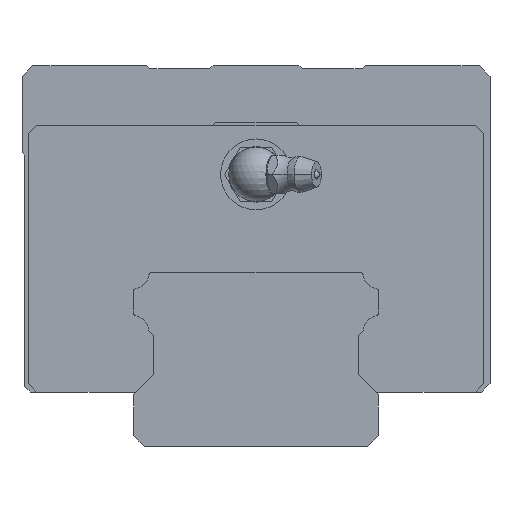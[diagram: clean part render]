
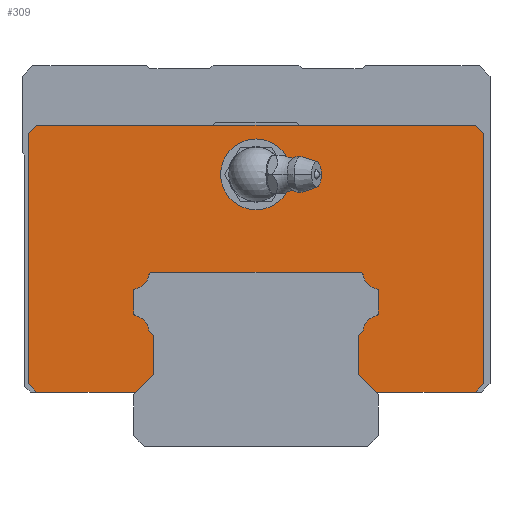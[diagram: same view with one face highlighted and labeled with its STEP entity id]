
A CAD part, front view. The second image highlights one B-rep face of the part: STEP entity #309.
In plain terms, the highlighted planar face has unit normal (0, -1, 0).
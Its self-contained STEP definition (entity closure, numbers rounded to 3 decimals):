
#309=ADVANCED_FACE('',(#690,#691),#692,.T.);
#690=FACE_BOUND('',#1214,.T.);
#691=FACE_OUTER_BOUND('',#1215,.T.);
#692=PLANE('',#1216);
#1214=EDGE_LOOP('',(#2506,#2507,#2508));
#1215=EDGE_LOOP('',(#2509,#2510,#2511,#2512,#2513,#2514,#2515,#2516,#2517,#2518,#2519,#2520,#2521,#2522,#2523,#2524,#2525,#2526,#2527,#2528,#2529,#2530,#2531,#2532,#2533,#2534,#2535,#2536));
#1216=AXIS2_PLACEMENT_3D('',#2537,#2538,#2539);
#2506=ORIENTED_EDGE('',*,*,#3655,.F.);
#2507=ORIENTED_EDGE('',*,*,#3656,.F.);
#2508=ORIENTED_EDGE('',*,*,#3492,.F.);
#2509=ORIENTED_EDGE('',*,*,#3657,.T.);
#2510=ORIENTED_EDGE('',*,*,#3658,.T.);
#2511=ORIENTED_EDGE('',*,*,#3659,.T.);
#2512=ORIENTED_EDGE('',*,*,#3660,.T.);
#2513=ORIENTED_EDGE('',*,*,#3661,.T.);
#2514=ORIENTED_EDGE('',*,*,#3662,.T.);
#2515=ORIENTED_EDGE('',*,*,#3663,.T.);
#2516=ORIENTED_EDGE('',*,*,#3664,.T.);
#2517=ORIENTED_EDGE('',*,*,#3630,.T.);
#2518=ORIENTED_EDGE('',*,*,#3665,.T.);
#2519=ORIENTED_EDGE('',*,*,#3610,.T.);
#2520=ORIENTED_EDGE('',*,*,#3666,.T.);
#2521=ORIENTED_EDGE('',*,*,#3667,.T.);
#2522=ORIENTED_EDGE('',*,*,#3668,.T.);
#2523=ORIENTED_EDGE('',*,*,#3669,.T.);
#2524=ORIENTED_EDGE('',*,*,#3670,.T.);
#2525=ORIENTED_EDGE('',*,*,#3671,.T.);
#2526=ORIENTED_EDGE('',*,*,#3672,.T.);
#2527=ORIENTED_EDGE('',*,*,#3673,.T.);
#2528=ORIENTED_EDGE('',*,*,#3674,.T.);
#2529=ORIENTED_EDGE('',*,*,#3675,.T.);
#2530=ORIENTED_EDGE('',*,*,#3676,.T.);
#2531=ORIENTED_EDGE('',*,*,#3677,.T.);
#2532=ORIENTED_EDGE('',*,*,#3678,.T.);
#2533=ORIENTED_EDGE('',*,*,#3679,.T.);
#2534=ORIENTED_EDGE('',*,*,#3680,.T.);
#2535=ORIENTED_EDGE('',*,*,#3681,.T.);
#2536=ORIENTED_EDGE('',*,*,#3682,.T.);
#2537=CARTESIAN_POINT('',(0.,-34.25,99.3));
#2538=DIRECTION('',(0.0,-1.0,0.0));
#2539=DIRECTION('',(0.0,0.0,-1.0));
#3492=EDGE_CURVE('',#4263,#4266,#4267,.T.);
#3610=EDGE_CURVE('',#4473,#4471,#4474,.T.);
#3630=EDGE_CURVE('',#4504,#4509,#4511,.T.);
#3655=EDGE_CURVE('',#4552,#4263,#4553,.T.);
#3656=EDGE_CURVE('',#4266,#4552,#4554,.T.);
#3657=EDGE_CURVE('',#4555,#4556,#4557,.T.);
#3658=EDGE_CURVE('',#4556,#4558,#4559,.T.);
#3659=EDGE_CURVE('',#4558,#4560,#4561,.T.);
#3660=EDGE_CURVE('',#4560,#4562,#4563,.T.);
#3661=EDGE_CURVE('',#4562,#4564,#4565,.T.);
#3662=EDGE_CURVE('',#4564,#4566,#4567,.T.);
#3663=EDGE_CURVE('',#4566,#4568,#4569,.T.);
#3664=EDGE_CURVE('',#4568,#4504,#4570,.T.);
#3665=EDGE_CURVE('',#4509,#4473,#4571,.T.);
#3666=EDGE_CURVE('',#4471,#4572,#4573,.T.);
#3667=EDGE_CURVE('',#4572,#4574,#4575,.T.);
#3668=EDGE_CURVE('',#4574,#4576,#4577,.T.);
#3669=EDGE_CURVE('',#4576,#4578,#4579,.T.);
#3670=EDGE_CURVE('',#4578,#4580,#4581,.T.);
#3671=EDGE_CURVE('',#4580,#4582,#4583,.T.);
#3672=EDGE_CURVE('',#4582,#4584,#4585,.T.);
#3673=EDGE_CURVE('',#4584,#4586,#4587,.T.);
#3674=EDGE_CURVE('',#4586,#4588,#4589,.T.);
#3675=EDGE_CURVE('',#4588,#4590,#4591,.T.);
#3676=EDGE_CURVE('',#4590,#4592,#4593,.T.);
#3677=EDGE_CURVE('',#4592,#4594,#4595,.T.);
#3678=EDGE_CURVE('',#4594,#4596,#4597,.T.);
#3679=EDGE_CURVE('',#4596,#4598,#4599,.T.);
#3680=EDGE_CURVE('',#4598,#4600,#4601,.T.);
#3681=EDGE_CURVE('',#4600,#4602,#4603,.T.);
#3682=EDGE_CURVE('',#4602,#4555,#4604,.T.);
#4263=VERTEX_POINT('',#5508);
#4266=VERTEX_POINT('',#5512);
#4267=CIRCLE('',#5513,6.5);
#4471=VERTEX_POINT('',#5779);
#4473=VERTEX_POINT('',#5782);
#4474=LINE('',#5783,#5784);
#4504=VERTEX_POINT('',#5827);
#4509=VERTEX_POINT('',#5834);
#4511=LINE('',#5837,#5838);
#4552=VERTEX_POINT('',#5899);
#4553=CIRCLE('',#5900,6.5);
#4554=CIRCLE('',#5901,6.5);
#4555=VERTEX_POINT('',#5902);
#4556=VERTEX_POINT('',#5903);
#4557=LINE('',#5904,#5905);
#4558=VERTEX_POINT('',#5906);
#4559=LINE('',#5907,#5908);
#4560=VERTEX_POINT('',#5909);
#4561=LINE('',#5910,#5911);
#4562=VERTEX_POINT('',#5912);
#4563=LINE('',#5913,#5914);
#4564=VERTEX_POINT('',#5915);
#4565=LINE('',#5916,#5917);
#4566=VERTEX_POINT('',#5918);
#4567=LINE('',#5919,#5920);
#4568=VERTEX_POINT('',#5921);
#4569=LINE('',#5922,#5923);
#4570=LINE('',#5924,#5925);
#4571=LINE('',#5926,#5927);
#4572=VERTEX_POINT('',#5928);
#4573=LINE('',#5929,#5930);
#4574=VERTEX_POINT('',#5931);
#4575=LINE('',#5932,#5933);
#4576=VERTEX_POINT('',#5934);
#4577=LINE('',#5935,#5936);
#4578=VERTEX_POINT('',#5937);
#4579=CIRCLE('',#5938,3.2);
#4580=VERTEX_POINT('',#5939);
#4581=CIRCLE('',#5940,0.5);
#4582=VERTEX_POINT('',#5941);
#4583=LINE('',#5942,#5943);
#4584=VERTEX_POINT('',#5944);
#4585=CIRCLE('',#5945,0.5);
#4586=VERTEX_POINT('',#5946);
#4587=CIRCLE('',#5947,3.2);
#4588=VERTEX_POINT('',#5948);
#4589=CIRCLE('',#5949,0.5);
#4590=VERTEX_POINT('',#5950);
#4591=LINE('',#5951,#5952);
#4592=VERTEX_POINT('',#5953);
#4593=CIRCLE('',#5954,0.5);
#4594=VERTEX_POINT('',#5955);
#4595=CIRCLE('',#5956,3.2);
#4596=VERTEX_POINT('',#5957);
#4597=CIRCLE('',#5958,0.5);
#4598=VERTEX_POINT('',#5959);
#4599=LINE('',#5960,#5961);
#4600=VERTEX_POINT('',#5962);
#4601=CIRCLE('',#5963,0.5);
#4602=VERTEX_POINT('',#5964);
#4603=CIRCLE('',#5965,3.2);
#4604=LINE('',#5966,#5967);
#5508=CARTESIAN_POINT('',(0.,-34.25,56.5));
#5512=CARTESIAN_POINT('',(0.,-34.25,43.5));
#5513=AXIS2_PLACEMENT_3D('',#6664,#6665,#6666);
#5779=CARTESIAN_POINT('',(-22.0,-34.25,10.0));
#5782=CARTESIAN_POINT('',(-40.3,-34.25,10.0));
#5783=CARTESIAN_POINT('',(-40.3,-34.25,10.0));
#5784=VECTOR('',#6892,1000.0);
#5827=CARTESIAN_POINT('',(-41.8,-34.25,57.5));
#5834=CARTESIAN_POINT('',(-41.8,-34.25,11.5));
#5837=CARTESIAN_POINT('',(-41.8,-34.25,57.5));
#5838=VECTOR('',#6918,1000.0);
#5899=CARTESIAN_POINT('',(6.5,-34.25,50.0));
#5900=AXIS2_PLACEMENT_3D('',#6951,#6952,#6953);
#5901=AXIS2_PLACEMENT_3D('',#6954,#6955,#6956);
#5902=CARTESIAN_POINT('',(18.75,-34.25,20.45));
#5903=CARTESIAN_POINT('',(18.75,-34.25,13.25));
#5904=CARTESIAN_POINT('',(18.75,-34.25,99.3));
#5905=VECTOR('',#6957,1000.0);
#5906=CARTESIAN_POINT('',(22.0,-34.25,10.0));
#5907=CARTESIAN_POINT('',(-33.65,-34.25,65.65));
#5908=VECTOR('',#6958,1000.0);
#5909=CARTESIAN_POINT('',(40.3,-34.25,10.0));
#5910=CARTESIAN_POINT('',(-40.3,-34.25,10.0));
#5911=VECTOR('',#6959,1000.0);
#5912=CARTESIAN_POINT('',(41.8,-34.25,11.5));
#5913=CARTESIAN_POINT('',(40.3,-34.25,10.0));
#5914=VECTOR('',#6960,1000.0);
#5915=CARTESIAN_POINT('',(41.8,-34.25,57.5));
#5916=CARTESIAN_POINT('',(41.8,-34.25,11.5));
#5917=VECTOR('',#6961,1000.0);
#5918=CARTESIAN_POINT('',(40.3,-34.25,59.0));
#5919=CARTESIAN_POINT('',(41.8,-34.25,57.5));
#5920=VECTOR('',#6962,1000.0);
#5921=CARTESIAN_POINT('',(-40.3,-34.25,59.0));
#5922=CARTESIAN_POINT('',(40.3,-34.25,59.0));
#5923=VECTOR('',#6963,1000.0);
#5924=CARTESIAN_POINT('',(-40.3,-34.25,59.0));
#5925=VECTOR('',#6964,1000.0);
#5926=CARTESIAN_POINT('',(-41.8,-34.25,11.5));
#5927=VECTOR('',#6965,1000.0);
#5928=CARTESIAN_POINT('',(-18.75,-34.25,13.25));
#5929=CARTESIAN_POINT('',(33.65,-34.25,65.65));
#5930=VECTOR('',#6966,1000.0);
#5931=CARTESIAN_POINT('',(-18.75,-34.25,20.45));
#5932=CARTESIAN_POINT('',(-18.75,-34.25,99.3));
#5933=VECTOR('',#6967,1000.0);
#5934=CARTESIAN_POINT('',(-19.674,-34.25,21.374));
#5935=CARTESIAN_POINT('',(-48.8,-34.25,50.5));
#5936=VECTOR('',#6968,1000.0);
#5937=CARTESIAN_POINT('',(-22.113,-34.25,24.027));
#5938=AXIS2_PLACEMENT_3D('',#6969,#6970,#6971);
#5939=CARTESIAN_POINT('',(-22.5,-34.25,24.514));
#5940=AXIS2_PLACEMENT_3D('',#6972,#6973,#6974);
#5941=CARTESIAN_POINT('',(-22.5,-34.25,28.486));
#5942=CARTESIAN_POINT('',(-22.5,-34.25,99.3));
#5943=VECTOR('',#6975,1000.0);
#5944=CARTESIAN_POINT('',(-22.113,-34.25,28.973));
#5945=AXIS2_PLACEMENT_3D('',#6976,#6977,#6978);
#5946=CARTESIAN_POINT('',(-19.681,-34.25,31.58));
#5947=AXIS2_PLACEMENT_3D('',#6979,#6980,#6981);
#5948=CARTESIAN_POINT('',(-19.187,-34.25,32.0));
#5949=AXIS2_PLACEMENT_3D('',#6982,#6983,#6984);
#5950=CARTESIAN_POINT('',(19.187,-34.25,32.0));
#5951=CARTESIAN_POINT('',(0.,-34.25,32.0));
#5952=VECTOR('',#6985,1000.0);
#5953=CARTESIAN_POINT('',(19.681,-34.25,31.58));
#5954=AXIS2_PLACEMENT_3D('',#6986,#6987,#6988);
#5955=CARTESIAN_POINT('',(22.113,-34.25,28.973));
#5956=AXIS2_PLACEMENT_3D('',#6989,#6990,#6991);
#5957=CARTESIAN_POINT('',(22.5,-34.25,28.486));
#5958=AXIS2_PLACEMENT_3D('',#6992,#6993,#6994);
#5959=CARTESIAN_POINT('',(22.5,-34.25,24.514));
#5960=CARTESIAN_POINT('',(22.5,-34.25,99.3));
#5961=VECTOR('',#6995,1000.0);
#5962=CARTESIAN_POINT('',(22.113,-34.25,24.027));
#5963=AXIS2_PLACEMENT_3D('',#6996,#6997,#6998);
#5964=CARTESIAN_POINT('',(19.674,-34.25,21.374));
#5965=AXIS2_PLACEMENT_3D('',#6999,#7000,#7001);
#5966=CARTESIAN_POINT('',(48.8,-34.25,50.5));
#5967=VECTOR('',#7002,1000.0);
#6664=CARTESIAN_POINT('',(0.,-34.25,50.0));
#6665=DIRECTION('',(0.0,-1.0,0.0));
#6666=DIRECTION('',(1.0,0.0,0.0));
#6892=DIRECTION('',(1.0,0.0,0.0));
#6918=DIRECTION('',(0.0,0.0,-1.0));
#6951=CARTESIAN_POINT('',(0.,-34.25,50.0));
#6952=DIRECTION('',(0.0,-1.0,0.0));
#6953=DIRECTION('',(1.0,0.0,0.0));
#6954=CARTESIAN_POINT('',(0.,-34.25,50.0));
#6955=DIRECTION('',(0.0,-1.0,0.0));
#6956=DIRECTION('',(1.0,0.0,0.0));
#6957=DIRECTION('',(0.0,0.0,-1.0));
#6958=DIRECTION('',(0.707,0.0,-0.707));
#6959=DIRECTION('',(1.0,0.0,0.0));
#6960=DIRECTION('',(0.707,0.0,0.707));
#6961=DIRECTION('',(0.0,0.0,1.0));
#6962=DIRECTION('',(-0.707,0.0,0.707));
#6963=DIRECTION('',(-1.0,0.0,0.));
#6964=DIRECTION('',(-0.707,0.0,-0.707));
#6965=DIRECTION('',(0.707,0.0,-0.707));
#6966=DIRECTION('',(0.707,0.0,0.707));
#6967=DIRECTION('',(0.0,0.0,1.0));
#6968=DIRECTION('',(-0.707,0.0,0.707));
#6969=CARTESIAN_POINT('',(-22.84,-34.25,20.91));
#6970=DIRECTION('',(0.0,-1.0,0.0));
#6971=DIRECTION('',(0.0,0.0,-1.0));
#6972=CARTESIAN_POINT('',(-22.0,-34.25,24.514));
#6973=DIRECTION('',(0.0,1.0,0.0));
#6974=DIRECTION('',(0.0,0.0,-1.0));
#6975=DIRECTION('',(0.0,0.0,1.0));
#6976=CARTESIAN_POINT('',(-22.0,-34.25,28.486));
#6977=DIRECTION('',(0.0,1.0,0.0));
#6978=DIRECTION('',(0.0,0.0,-1.0));
#6979=CARTESIAN_POINT('',(-22.84,-34.25,32.09));
#6980=DIRECTION('',(0.0,-1.0,0.0));
#6981=DIRECTION('',(0.0,0.0,-1.0));
#6982=CARTESIAN_POINT('',(-19.187,-34.25,31.5));
#6983=DIRECTION('',(0.0,1.0,0.0));
#6984=DIRECTION('',(0.0,0.0,-1.0));
#6985=DIRECTION('',(1.0,0.0,0.0));
#6986=CARTESIAN_POINT('',(19.187,-34.25,31.5));
#6987=DIRECTION('',(0.0,1.0,0.0));
#6988=DIRECTION('',(0.0,0.0,-1.0));
#6989=CARTESIAN_POINT('',(22.84,-34.25,32.09));
#6990=DIRECTION('',(0.0,-1.0,0.0));
#6991=DIRECTION('',(0.0,0.0,-1.0));
#6992=CARTESIAN_POINT('',(22.0,-34.25,28.486));
#6993=DIRECTION('',(0.0,1.0,0.0));
#6994=DIRECTION('',(0.0,0.0,-1.0));
#6995=DIRECTION('',(0.0,0.0,-1.0));
#6996=CARTESIAN_POINT('',(22.0,-34.25,24.514));
#6997=DIRECTION('',(0.0,1.0,0.0));
#6998=DIRECTION('',(0.0,0.0,-1.0));
#6999=CARTESIAN_POINT('',(22.84,-34.25,20.91));
#7000=DIRECTION('',(0.0,-1.0,0.0));
#7001=DIRECTION('',(0.0,0.0,-1.0));
#7002=DIRECTION('',(-0.707,0.0,-0.707));
